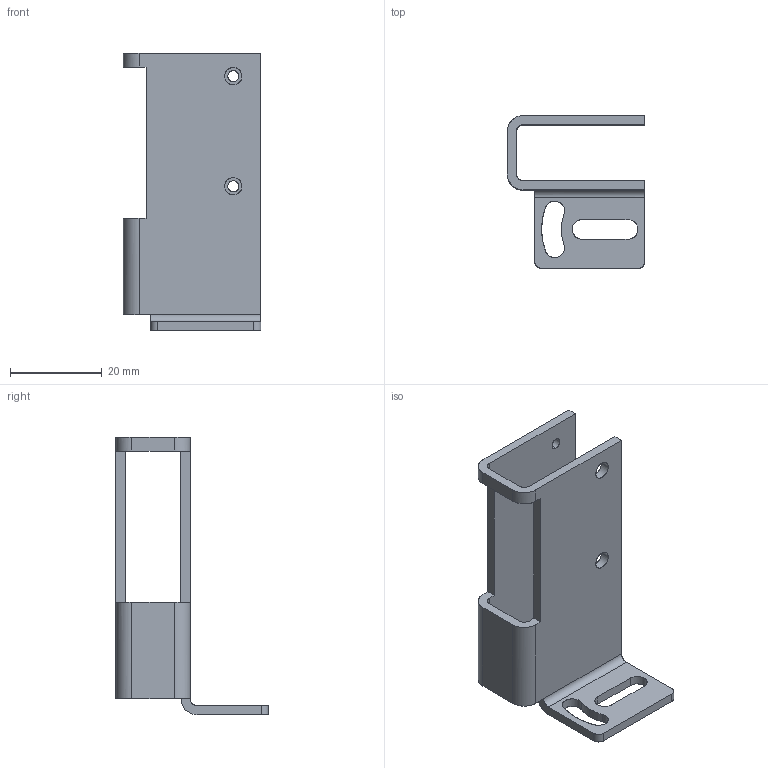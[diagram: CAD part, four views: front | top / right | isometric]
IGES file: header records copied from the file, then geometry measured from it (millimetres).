
Global section: file name: O:\Archiv\ARCHIV\153\3D-Model Kunde (DXF, IGS, SAT)\15300296 MSP F20-1.igs; native system: AutoCAD-16.0s (LMS Tech) (Microsoft Windows NT Version 5.1 (x86)); preprocessor: Autodesk IGES Translator Mechanical Desktop.R8.0.24.0 (Oct  8 2003) from Autodesk, Inc.; date: 20081028.093409; units: millimetre
Bounding box: 30 x 33.2 x 60.5 mm (x, y, z)
Surface area: 16631.1 mm2 (no closed solid volume)
Topology: 0 solids, 0 shells, 102 faces, 1124 edges, 1124 vertices
Faces by surface type: bspline 102
